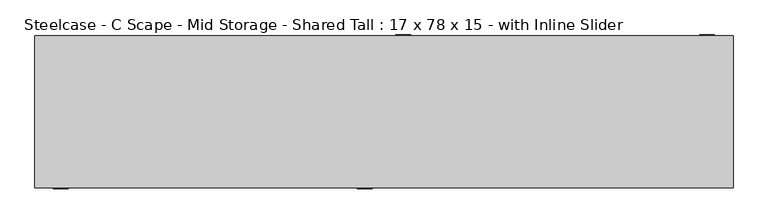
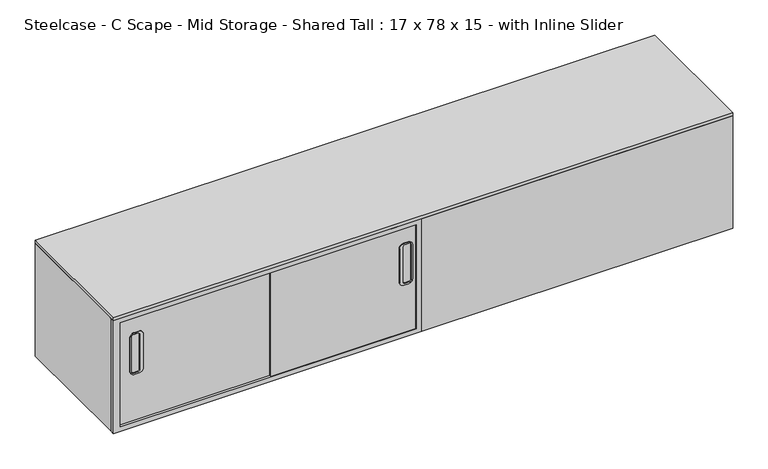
"""IFC4 building model written with IfcOpenShell, lengths in millimetres: furniture geometry, Steelcase - C Scape - Mid Storage - Shared Tall : 17 x 78 x 15 - with Inline Slider."""

from ifc_helpers import new_model, si_unit, point, frame, frame_2d, origin, place, context, project, spatial, polyline, circle_curve, trimmed, segment, composite_curve, outline, extrude, faceted_brep, source, transform, mapped, element, save


def steelcase_c_scape_mid_storage_shared_tall_17_x_78_x_15_with_7ad7a7bc(model_context):
    return source(origin(), model_context, "Body", "SolidModel", [
        faceted_brep([(993.775, 215.9, 1219.279375), (0.0, 215.9, 1219.279375), (0.0, -201.2949309, 1219.279375), (21.9711633, -201.2949309, 1219.279375), (21.9711633, 206.3755809, 1219.279375), (987.425, 206.3755809, 1219.279375), (987.425, -215.9, 1219.279375), (1981.2, -215.9, 1219.279375), (1981.2, 206.3755809, 1219.279375), (1959.102, 206.3755809, 1219.279375), (1959.102, -201.2949309, 1219.279375), (993.775, -201.2949309, 1219.279375), (1981.2, 206.3755809, 838.2), (1981.2, -215.9, 838.2), (987.425, -215.9, 838.2), (987.425, -201.2949309, 838.2), (0.0, -201.2949309, 838.2), (0.0, 215.9, 838.2), (993.775, 215.9, 838.2), (993.775, 206.3755809, 838.2), (987.425, -201.2949309, 853.4399855), (21.9711633, -201.2949309, 853.4399855), (21.9711633, 206.3755809, 853.4399855), (987.425, 206.3755809, 853.4399855), (993.775, 206.3755809, 853.4399855), (1959.102, 206.3755809, 853.4399855), (1959.102, -201.2949309, 853.4399855), (993.775, -201.2949309, 853.4399855)], [[[0, 1, 2, 3, 4, 5, 6, 7, 8, 9, 10, 11]], [[12, 13, 14, 15, 16, 17, 18, 19]], [[1, 0, 18, 17]], [[2, 1, 17, 16]], [[3, 2, 16, 15, 20, 21]], [[4, 3, 21, 22]], [[5, 4, 22, 23]], [[6, 5, 23, 20, 15, 14]], [[7, 6, 14, 13]], [[8, 7, 13, 12]], [[9, 8, 12, 19, 24, 25]], [[10, 9, 25, 26]], [[11, 10, 26, 27]], [[0, 11, 27, 24, 19, 18]], [[21, 20, 23, 22]], [[25, 24, 27, 26]]]),
        extrude(outline(polyline([(1219.279375, 1981.2), (1219.279375, 993.775), (838.2, 993.775), (838.2, 1981.2), (1219.279375, 1981.2)]), holes=[polyline([(1205.8427824, 1959.102), (853.4399855, 1959.102), (853.4399855, 1012.698), (1205.8427824, 1012.698), (1205.8427824, 1959.102)])]), frame((0.0, 206.3755809, 0.0), z_axis=(0.0, 1.0, 0.0), x_axis=(0.0, 0.0, 1.0)), (0.0, 0.0, 1.0), 9.5244191),
        extrude(outline(polyline([(1219.279375, 987.425), (1219.279375, 0.0), (838.2, 0.0), (838.2, 987.425), (1219.279375, 987.425)]), holes=[polyline([(1205.8427824, 968.502), (853.4399855, 968.502), (853.4399855, 21.9711633), (1205.8427824, 21.9711633), (1205.8427824, 968.502)])]), frame((0.0, -215.9, 0.0), z_axis=(0.0, 1.0, 0.0), x_axis=(0.0, 0.0, 1.0)), (0.0, 0.0, 1.0), 14.6050691),
        extrude(outline(polyline([(1981.2, -215.9), (0.0, -215.9), (0.0, 215.9), (1981.2, 215.9), (1981.2, -215.9)])), frame((0.0, 0.0, 1219.279375), z_axis=(0.0, 0.0, 1.0), x_axis=(1.0, 0.0, 0.0)), (0.0, 0.0, 1.0), 10.080625),
        extrude(outline(composite_curve([segment(trimmed(circle_curve(frame_2d((1142.6476077, 1914.6179733)), 13.716), [point((1142.6476077, 1928.3339733))], [point((1156.3636077, 1914.6179733))], False, "CARTESIAN"), True, "CONTINUOUS"), segment(polyline([(1156.3636077, 1914.6179733), (1156.3636077, 1899.6703473)]), True, "CONTINUOUS"), segment(trimmed(circle_curve(frame_2d((1142.7362332, 1899.6703473)), 13.6273746), [point((1156.3636077, 1899.6703473))], [point((1142.7362332, 1886.0429727))], False, "CARTESIAN"), True, "CONTINUOUS"), segment(polyline([(1142.7362332, 1886.0429727), (1030.3795593, 1886.0429727)]), True, "CONTINUOUS"), segment(trimmed(circle_curve(frame_2d((1030.3795593, 1899.7589727)), 13.716), [point((1030.3795593, 1886.0429727))], [point((1016.6635593, 1899.7589727))], False, "CARTESIAN"), True, "CONTINUOUS"), segment(polyline([(1016.6635593, 1899.7589727), (1016.6635593, 1914.6179733)]), True, "CONTINUOUS"), segment(trimmed(circle_curve(frame_2d((1030.3795593, 1914.6179733)), 13.716), [point((1016.6635593, 1914.6179733))], [point((1030.3795593, 1928.3339733))], False, "CARTESIAN"), True, "CONTINUOUS"), segment(polyline([(1030.3795593, 1928.3339733), (1142.6476077, 1928.3339733)]), True, "CONTINUOUS")], self_intersect=False), holes=[composite_curve([segment(trimmed(circle_curve(frame_2d((1027.8395729, 1917.1579733)), 6.35), [point((1027.8395729, 1923.5079733))], [point((1021.4895729, 1917.1579733))], True, "CARTESIAN"), True, "CONTINUOUS"), segment(polyline([(1021.4895729, 1917.1579733), (1021.4895729, 1904.4579794)]), True, "CONTINUOUS"), segment(trimmed(circle_curve(frame_2d((1027.8395729, 1904.4579794)), 6.35), [point((1021.4895729, 1904.4579794))], [point((1027.8395729, 1898.1079794))], True, "CARTESIAN"), True, "CONTINUOUS"), segment(polyline([(1027.8395729, 1898.1079794), (1145.1875942, 1898.1079794)]), True, "CONTINUOUS"), segment(trimmed(circle_curve(frame_2d((1145.1875942, 1904.4579794)), 6.35), [point((1145.1875942, 1898.1079794))], [point((1151.5375942, 1904.4579794))], True, "CARTESIAN"), True, "CONTINUOUS"), segment(polyline([(1151.5375942, 1904.4579794), (1151.5375942, 1917.1579733)]), True, "CONTINUOUS"), segment(trimmed(circle_curve(frame_2d((1145.1875942, 1917.1579733)), 6.35), [point((1151.5375942, 1917.1579733))], [point((1145.1875942, 1923.5079733))], True, "CARTESIAN"), True, "CONTINUOUS"), segment(polyline([(1145.1875942, 1923.5079733), (1027.8395729, 1923.5079733)]), True, "CONTINUOUS")], self_intersect=False)]), frame((0.0, 215.9, 0.0), z_axis=(0.0, 1.0, 0.0), x_axis=(0.0, 0.0, 1.0)), (0.0, 0.0, 1.0), 2.54),
        extrude(outline(composite_curve([segment(polyline([(1142.6476077, 1024.5430267), (1030.3795593, 1024.5430267)]), True, "CONTINUOUS"), segment(trimmed(circle_curve(frame_2d((1030.3795593, 1038.2590267)), 13.716), [point((1030.3795593, 1024.5430267))], [point((1016.6635593, 1038.2590267))], False, "CARTESIAN"), True, "CONTINUOUS"), segment(polyline([(1016.6635593, 1038.2590267), (1016.6635593, 1053.1180273)]), True, "CONTINUOUS"), segment(trimmed(circle_curve(frame_2d((1030.3795593, 1053.1180273)), 13.716), [point((1016.6635593, 1053.1180273))], [point((1030.3795593, 1066.8340273))], False, "CARTESIAN"), True, "CONTINUOUS"), segment(polyline([(1030.3795593, 1066.8340273), (1142.7362332, 1066.8340273)]), True, "CONTINUOUS"), segment(trimmed(circle_curve(frame_2d((1142.7362332, 1053.2066527)), 13.6273746), [point((1142.7362332, 1066.8340273))], [point((1156.3636077, 1053.2066527))], False, "CARTESIAN"), True, "CONTINUOUS"), segment(polyline([(1156.3636077, 1053.2066527), (1156.3636077, 1038.2590267)]), True, "CONTINUOUS"), segment(trimmed(circle_curve(frame_2d((1142.6476077, 1038.2590267)), 13.716), [point((1156.3636077, 1038.2590267))], [point((1142.6476077, 1024.5430267))], False, "CARTESIAN"), True, "CONTINUOUS")], self_intersect=False), holes=[composite_curve([segment(polyline([(1027.8395729, 1029.3690267), (1145.1875942, 1029.3690267)]), True, "CONTINUOUS"), segment(trimmed(circle_curve(frame_2d((1145.1875942, 1035.7190267)), 6.35), [point((1145.1875942, 1029.3690267))], [point((1151.5375942, 1035.7190267))], True, "CARTESIAN"), True, "CONTINUOUS"), segment(polyline([(1151.5375942, 1035.7190267), (1151.5375942, 1048.4190206)]), True, "CONTINUOUS"), segment(trimmed(circle_curve(frame_2d((1145.1875942, 1048.4190206)), 6.35), [point((1151.5375942, 1048.4190206))], [point((1145.1875942, 1054.7690206))], True, "CARTESIAN"), True, "CONTINUOUS"), segment(polyline([(1145.1875942, 1054.7690206), (1027.8395729, 1054.7690206)]), True, "CONTINUOUS"), segment(trimmed(circle_curve(frame_2d((1027.8395729, 1048.4190206)), 6.35), [point((1027.8395729, 1054.7690206))], [point((1021.4895729, 1048.4190206))], True, "CARTESIAN"), True, "CONTINUOUS"), segment(polyline([(1021.4895729, 1048.4190206), (1021.4895729, 1035.7190267)]), True, "CONTINUOUS"), segment(trimmed(circle_curve(frame_2d((1027.8395729, 1035.7190267)), 6.35), [point((1021.4895729, 1035.7190267))], [point((1027.8395729, 1029.3690267))], True, "CARTESIAN"), True, "CONTINUOUS")], self_intersect=False)]), frame((0.0, 215.9, 0.0), z_axis=(0.0, 1.0, 0.0), x_axis=(0.0, 0.0, 1.0)), (0.0, 0.0, 1.0), 2.54),
        extrude(outline(composite_curve([segment(trimmed(circle_curve(frame_2d((1142.6476077, 942.9409733)), 13.716), [point((1142.6476077, 956.6569733))], [point((1156.3636077, 942.9409733))], False, "CARTESIAN"), True, "CONTINUOUS"), segment(polyline([(1156.3636077, 942.9409733), (1156.3636077, 927.9933473)]), True, "CONTINUOUS"), segment(trimmed(circle_curve(frame_2d((1142.7362332, 927.9933473)), 13.6273746), [point((1156.3636077, 927.9933473))], [point((1142.7362332, 914.3659727))], False, "CARTESIAN"), True, "CONTINUOUS"), segment(polyline([(1142.7362332, 914.3659727), (1030.3795593, 914.3659727)]), True, "CONTINUOUS"), segment(trimmed(circle_curve(frame_2d((1030.3795593, 928.0819727)), 13.716), [point((1030.3795593, 914.3659727))], [point((1016.6635593, 928.0819727))], False, "CARTESIAN"), True, "CONTINUOUS"), segment(polyline([(1016.6635593, 928.0819727), (1016.6635593, 942.9409733)]), True, "CONTINUOUS"), segment(trimmed(circle_curve(frame_2d((1030.3795593, 942.9409733)), 13.716), [point((1016.6635593, 942.9409733))], [point((1030.3795593, 956.6569733))], False, "CARTESIAN"), True, "CONTINUOUS"), segment(polyline([(1030.3795593, 956.6569733), (1142.6476077, 956.6569733)]), True, "CONTINUOUS")], self_intersect=False), holes=[composite_curve([segment(trimmed(circle_curve(frame_2d((1027.8395729, 945.4809733)), 6.35), [point((1027.8395729, 951.8309733))], [point((1021.4895729, 945.4809733))], True, "CARTESIAN"), True, "CONTINUOUS"), segment(polyline([(1021.4895729, 945.4809733), (1021.4895729, 932.7809794)]), True, "CONTINUOUS"), segment(trimmed(circle_curve(frame_2d((1027.8395729, 932.7809794)), 6.35), [point((1021.4895729, 932.7809794))], [point((1027.8395729, 926.4309794))], True, "CARTESIAN"), True, "CONTINUOUS"), segment(polyline([(1027.8395729, 926.4309794), (1145.1875942, 926.4309794)]), True, "CONTINUOUS"), segment(trimmed(circle_curve(frame_2d((1145.1875942, 932.7809794)), 6.35), [point((1145.1875942, 926.4309794))], [point((1151.5375942, 932.7809794))], True, "CARTESIAN"), True, "CONTINUOUS"), segment(polyline([(1151.5375942, 932.7809794), (1151.5375942, 945.4809733)]), True, "CONTINUOUS"), segment(trimmed(circle_curve(frame_2d((1145.1875942, 945.4809733)), 6.35), [point((1151.5375942, 945.4809733))], [point((1145.1875942, 951.8309733))], True, "CARTESIAN"), True, "CONTINUOUS"), segment(polyline([(1145.1875942, 951.8309733), (1027.8395729, 951.8309733)]), True, "CONTINUOUS")], self_intersect=False)]), frame((0.0, -218.44, 0.0), z_axis=(0.0, 1.0, 0.0), x_axis=(0.0, 0.0, 1.0)), (0.0, 0.0, 1.0), 2.54),
        extrude(outline(composite_curve([segment(polyline([(1142.6476077, 52.73919), (1030.3795593, 52.73919)]), True, "CONTINUOUS"), segment(trimmed(circle_curve(frame_2d((1030.3795593, 66.45519)), 13.716), [point((1030.3795593, 52.73919))], [point((1016.6635593, 66.45519))], False, "CARTESIAN"), True, "CONTINUOUS"), segment(polyline([(1016.6635593, 66.45519), (1016.6635593, 81.3141906)]), True, "CONTINUOUS"), segment(trimmed(circle_curve(frame_2d((1030.3795593, 81.3141906)), 13.716), [point((1016.6635593, 81.3141906))], [point((1030.3795593, 95.0301906))], False, "CARTESIAN"), True, "CONTINUOUS"), segment(polyline([(1030.3795593, 95.0301906), (1142.7362332, 95.0301906)]), True, "CONTINUOUS"), segment(trimmed(circle_curve(frame_2d((1142.7362332, 81.402816)), 13.6273746), [point((1142.7362332, 95.0301906))], [point((1156.3636077, 81.402816))], False, "CARTESIAN"), True, "CONTINUOUS"), segment(polyline([(1156.3636077, 81.402816), (1156.3636077, 66.45519)]), True, "CONTINUOUS"), segment(trimmed(circle_curve(frame_2d((1142.6476077, 66.45519)), 13.716), [point((1156.3636077, 66.45519))], [point((1142.6476077, 52.73919))], False, "CARTESIAN"), True, "CONTINUOUS")], self_intersect=False), holes=[composite_curve([segment(polyline([(1027.8395729, 57.56519), (1145.1875942, 57.56519)]), True, "CONTINUOUS"), segment(trimmed(circle_curve(frame_2d((1145.1875942, 63.91519)), 6.35), [point((1145.1875942, 57.56519))], [point((1151.5375942, 63.91519))], True, "CARTESIAN"), True, "CONTINUOUS"), segment(polyline([(1151.5375942, 63.91519), (1151.5375942, 76.6151839)]), True, "CONTINUOUS"), segment(trimmed(circle_curve(frame_2d((1145.1875942, 76.6151839)), 6.35), [point((1151.5375942, 76.6151839))], [point((1145.1875942, 82.9651839))], True, "CARTESIAN"), True, "CONTINUOUS"), segment(polyline([(1145.1875942, 82.9651839), (1027.8395729, 82.9651839)]), True, "CONTINUOUS"), segment(trimmed(circle_curve(frame_2d((1027.8395729, 76.6151839)), 6.35), [point((1027.8395729, 82.9651839))], [point((1021.4895729, 76.6151839))], True, "CARTESIAN"), True, "CONTINUOUS"), segment(polyline([(1021.4895729, 76.6151839), (1021.4895729, 63.91519)]), True, "CONTINUOUS"), segment(trimmed(circle_curve(frame_2d((1027.8395729, 63.91519)), 6.35), [point((1021.4895729, 63.91519))], [point((1027.8395729, 57.56519))], True, "CARTESIAN"), True, "CONTINUOUS")], self_intersect=False)]), frame((0.0, -218.44, 0.0), z_axis=(0.0, 1.0, 0.0), x_axis=(0.0, 0.0, 1.0)), (0.0, 0.0, 1.0), 2.54),
        extrude(outline(polyline([(1476.4385, 206.3755809), (993.775, 206.3755809), (993.775, 211.1377905), (1476.4385, 211.1377905), (1476.4385, 206.3755809)])), frame((0.0, 0.0, 853.4399855), z_axis=(0.0, 0.0, 1.0), x_axis=(1.0, 0.0, 0.0)), (0.0, 0.0, 1.0), 365.8393895),
        extrude(outline(polyline([(1959.102, 211.1377905), (1476.4385, 211.1377905), (1476.4385, 214.5444948), (1959.102, 214.5444948), (1959.102, 211.1377905)])), frame((0.0, 0.0, 853.4399855), z_axis=(0.0, 0.0, 1.0), x_axis=(1.0, 0.0, 0.0)), (0.0, 0.0, 1.0), 365.8393895),
        extrude(outline(polyline([(987.425, -214.5444948), (504.6980817, -214.5444948), (504.6980817, -208.5974655), (987.425, -208.5974655), (987.425, -214.5444948)])), frame((0.0, 0.0, 853.4399855), z_axis=(0.0, 0.0, 1.0), x_axis=(1.0, 0.0, 0.0)), (0.0, 0.0, 1.0), 365.8393895),
        extrude(outline(polyline([(504.6980817, -208.5974655), (21.9711633, -208.5974655), (21.9711633, -201.2949309), (504.6980817, -201.2949309), (504.6980817, -208.5974655)])), frame((0.0, 0.0, 853.4399855), z_axis=(0.0, 0.0, 1.0), x_axis=(1.0, 0.0, 0.0)), (0.0, 0.0, 1.0), 365.8393895),
    ])


if __name__ == "__main__":
    model = new_model("IFC4")
    model_context = context("Model", 3, world=origin())
    ifc_project = project(units=[si_unit("LENGTHUNIT", "METRE", prefix="MILLI")], contexts=[model_context])
    site = spatial("IfcSite", under=ifc_project)
    building = spatial("IfcBuilding", under=site)
    placement = place(None, origin())
    steelcase_c_scape_mid_storage_shared_tall_17_x_78_x_15_with_shape = steelcase_c_scape_mid_storage_shared_tall_17_x_78_x_15_with_7ad7a7bc(model_context)
    element("IfcFurniture", 1, ObjectType="Steelcase - C Scape - Mid Storage - Shared Tall : 17 x 78 x 15 - with Inline Slider", at=placement, inside=building, context=model_context, shape_type="MappedRepresentation", body=[
        mapped(steelcase_c_scape_mid_storage_shared_tall_17_x_78_x_15_with_shape, transform((0.0, 0.0, 0.0), x_axis=(1.0, 0.0, 0.0), y_axis=(0.0, 1.0, 0.0), z_axis=(0.0, 0.0, 1.0))),
    ])
    save(model, "model.ifc")
